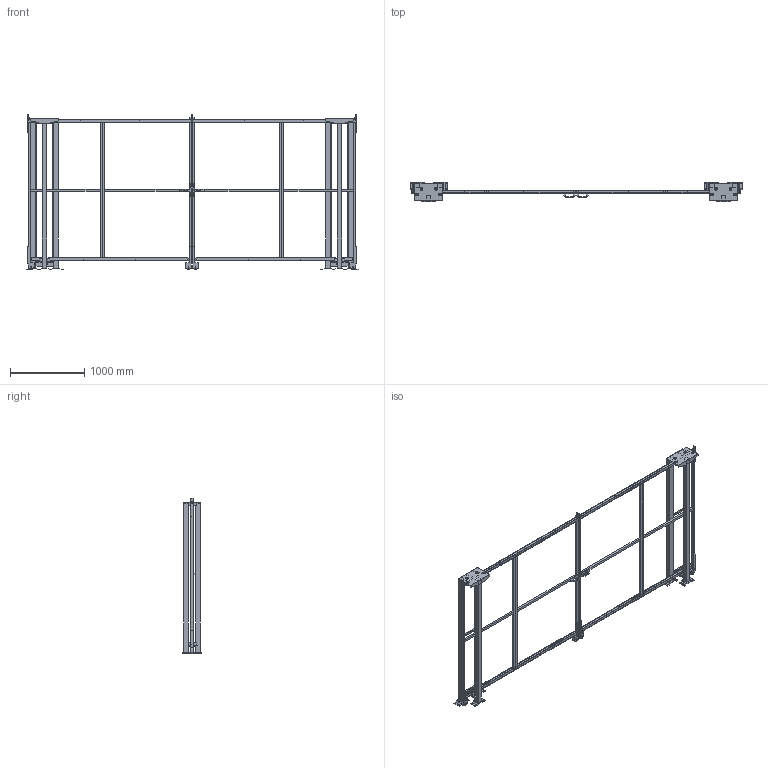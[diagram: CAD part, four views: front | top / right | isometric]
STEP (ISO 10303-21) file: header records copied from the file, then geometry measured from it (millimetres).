
FILE_DESCRIPTION(/* description */ (''),/* implementation_level */ '2;1');
FILE_NAME(/* name */ 'C:\SafeGuarding\ELABORATI\KLADKA2KR_2025-03-25-10-04-25.stp',/* time_stamp */ '2025-03-25T10:04:30+01:00',/* author */ ('admin'),/* organization */ (''),/* preprocessor_version */ 'ST-DEVELOPER v18.1',/* originating_system */ 'AutoCAD Mechanical',/* authorisation */ '');
FILE_SCHEMA (('AUTOMOTIVE_DESIGN { 1 0 10303 214 3 1 1 }'));
Length unit declared in the file: millimetre
Products named in the file (5): Product; R_VFPA.REPE30.10001900; R_VFPA.REPE30.12001900; R_VFPA.REPE20.02501900; P_VFMA.V260SDU.2020
Assembly tree (12 placements, depth 2):
  Product
    R_VFPA.REPE30.10001900  x2
    R_VFPA.REPE30.12001900  x2
    R_VFPA.REPE20.02501900  x2
    P_VFMA.V260SDU.2020  x6
Bounding box: 4471.92 x 264.01 x 2090.02 mm (x, y, z)
Volume: 78428353.5 mm3; surface area: 11444047.5 mm2
Topology: 108 solids, 130 shells, 946 faces, 2960 edges, 3066 vertices
Faces by surface type: plane 870, cylinder 76
Full cylindrical faces by diameter (mm): 9 x8, 11 x24, 13 x8, 14 x4, 30 x12, 36 x16, 80 x4
Entity records: 24013 total; most frequent: CARTESIAN_POINT 5133, DIRECTION 3650, ORIENTED_EDGE 3372, EDGE_CURVE 1784, LINE 1708, VECTOR 1708, VERTEX_POINT 1268, AXIS2_PLACEMENT_3D 971
